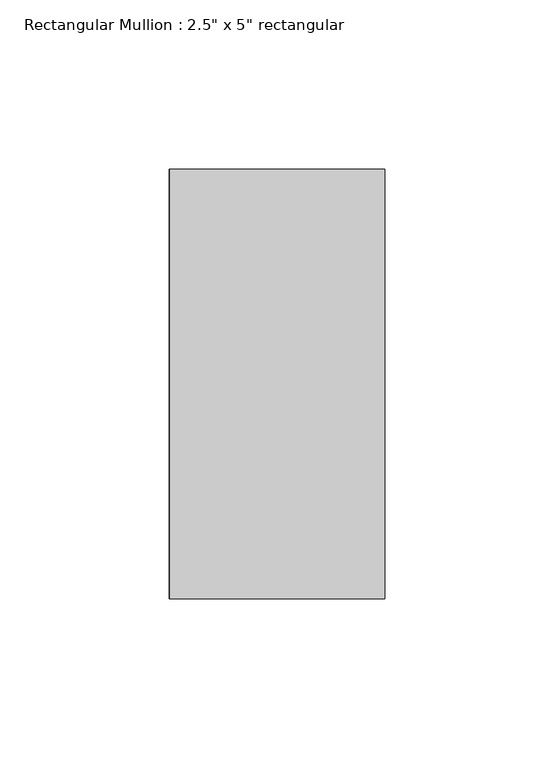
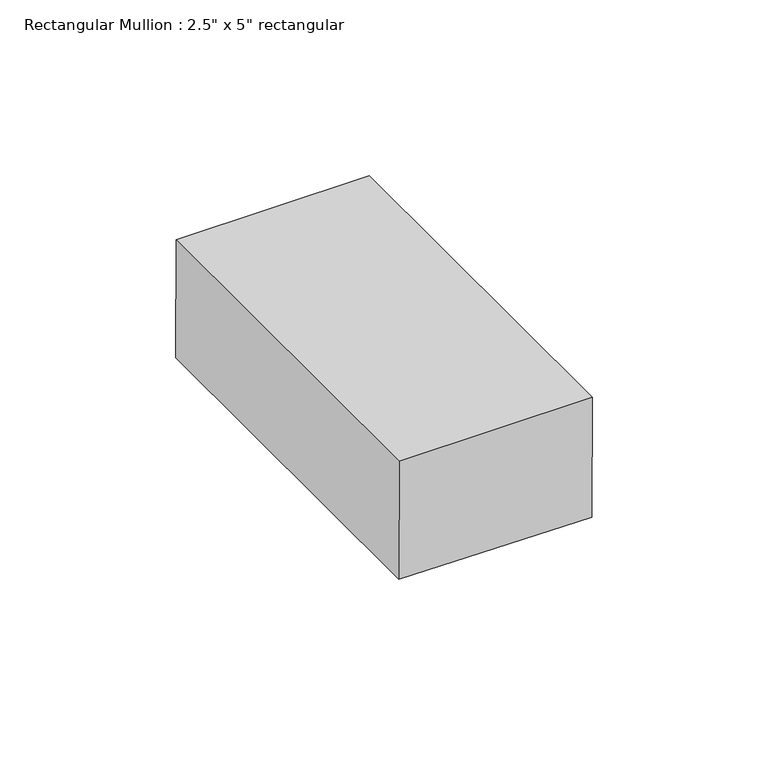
"""IFC4 building model written with IfcOpenShell, lengths in millimetres: member geometry."""

import ifcopenshell
import ifcopenshell.guid

model = None  # the IFC model being written
_history = None  # IfcOwnerHistory: only IFC2X3 demands one
_inside = {}  # id of a spatial element -> (the spatial element, [elements in it])
_under = {}  # id of a project, library or spatial element -> (it, [spatial elements below it])
_declared = {}  # id of a project -> (the project, [libraries it declares])
_typed = {}  # id of a type object -> (the type object, [elements of that type])
_made_of = {}  # id of a material, layer set ... -> (it, [elements and type objects made of it])


def new_model(schema):
    """Start an empty IFC model of exactly this schema.

    Asked for "IFC4X3", IfcOpenShell would pick the latest addendum, in which some entities
    have other attributes; the version numbers below select the first issue.
    IFC2X3 requires an IfcOwnerHistory on every rooted entity: one is made here for all.
    """
    global model, _history
    if schema == "IFC4X3":
        model = ifcopenshell.file(schema_version=(4, 3, 0, 0))
    else:
        model = ifcopenshell.file(schema=schema)
    _inside.clear()
    _under.clear()
    _declared.clear()
    _typed.clear()
    _made_of.clear()
    _history = None
    if model.schema == "IFC2X3":
        org = make("IfcOrganization", Name="unknown")
        user = make(
            "IfcPersonAndOrganization",
            ThePerson=make("IfcPerson", FamilyName="unknown"),
            TheOrganization=org,
        )
        app = make(
            "IfcApplication",
            ApplicationDeveloper=org,
            Version="unknown",
            ApplicationFullName="unknown",
            ApplicationIdentifier="unknown",
        )
        _history = make(
            "IfcOwnerHistory",
            OwningUser=user,
            OwningApplication=app,
            ChangeAction="ADDED",
            CreationDate=0,
        )
    return model


def make(cls, **values):
    """One entity of the class cls with the attributes given. An attribute that is None is left unset."""
    return model.create_entity(
        cls, **{name: value for name, value in values.items() if value is not None}
    )


def rooted(cls, **values):
    """An entity with a GlobalId (a new one), such as an element, a storey or a relation."""
    return make(cls, GlobalId=ifcopenshell.guid.new(), OwnerHistory=_history, **values)


def si_unit(unit_type, name, prefix=None):
    """IfcSIUnit, for example si_unit("LENGTHUNIT", "METRE", prefix="MILLI")."""
    return make("IfcSIUnit", UnitType=unit_type, Prefix=prefix, Name=name)


def assignment(units):
    """IfcUnitAssignment: the units of a project."""
    return None if units is None else make("IfcUnitAssignment", Units=units)


def point(xyz):
    """IfcCartesianPoint."""
    return None if xyz is None else make("IfcCartesianPoint", Coordinates=xyz)


def direction(xyz):
    """IfcDirection."""
    return None if xyz is None else make("IfcDirection", DirectionRatios=xyz)


def frame(location, z_axis=None, x_axis=None):
    """IfcAxis2Placement3D, a coordinate frame: its origin and axes. An axis left out is left unset."""
    return make(
        "IfcAxis2Placement3D",
        Location=point(location),
        Axis=direction(z_axis),
        RefDirection=direction(x_axis),
    )


def frame_2d(location, x_axis=None):
    """IfcAxis2Placement2D, a coordinate frame in the plane: its origin and x axis."""
    return make(
        "IfcAxis2Placement2D", Location=point(location), RefDirection=direction(x_axis)
    )


def origin():
    """The frame at (0, 0, 0) with its axes left unset."""
    return frame((0.0, 0.0, 0.0))


def place(relative_to, where):
    """IfcLocalPlacement: puts the frame where relative to a parent placement (None: the world)."""
    return make(
        "IfcLocalPlacement", PlacementRelTo=relative_to, RelativePlacement=where
    )


def context(
    kind, dimensions, precision=None, world=None, true_north=None, identifier=None
):
    """IfcGeometricRepresentationContext, for example the 3D "Model" context."""
    return make(
        "IfcGeometricRepresentationContext",
        ContextIdentifier=identifier,
        ContextType=kind,
        CoordinateSpaceDimension=dimensions,
        Precision=precision,
        WorldCoordinateSystem=world,
        TrueNorth=true_north,
    )


def project(units=None, contexts=None):
    """IfcProject with its units and contexts."""
    return rooted(
        "IfcProject",
        Name="project",
        RepresentationContexts=contexts,
        UnitsInContext=assignment(units),
    )


def spatial(cls, under=None, at=None, **own):
    """A site, building, storey or space (cls), placed at a placement, below another one or the project."""
    s = rooted(cls, ObjectPlacement=at, **own)
    if under is not None:
        _under.setdefault(under.id(), (under, []))[1].append(s)
    return s


def polyline(points):
    """IfcPolyline through the points."""
    return make("IfcPolyline", Points=[point(p) for p in points])


def circle_curve(where, radius):
    """IfcCircle in the frame where."""
    return make("IfcCircle", Position=where, Radius=radius)


def trimmed(basis, trim1, trim2, sense, master):
    """IfcTrimmedCurve: the piece of a basis curve between two trims."""
    return make(
        "IfcTrimmedCurve",
        BasisCurve=basis,
        Trim1=trim1,
        Trim2=trim2,
        SenseAgreement=sense,
        MasterRepresentation=master,
    )


def segment(curve, same_sense, transition):
    """IfcCompositeCurveSegment."""
    return make(
        "IfcCompositeCurveSegment",
        Transition=transition,
        SameSense=same_sense,
        ParentCurve=curve,
    )


def composite_curve(segments, self_intersect=None):
    """IfcCompositeCurve: segments joined end to end."""
    return make("IfcCompositeCurve", Segments=segments, SelfIntersect=self_intersect)


def outline(outer, holes=None, kind="AREA"):
    """IfcArbitraryClosedProfileDef: a profile drawn as a closed curve; with holes, ...WithVoids."""
    if holes is None:
        return make("IfcArbitraryClosedProfileDef", ProfileType=kind, OuterCurve=outer)
    return make(
        "IfcArbitraryProfileDefWithVoids",
        ProfileType=kind,
        OuterCurve=outer,
        InnerCurves=holes,
    )


def extrude(swept, where, along, depth):
    """IfcExtrudedAreaSolid: the profile swept, set in the frame where, extruded along a direction by depth."""
    return make(
        "IfcExtrudedAreaSolid",
        SweptArea=swept,
        Position=where,
        ExtrudedDirection=direction(along),
        Depth=depth,
    )


def shape(context_of_items, identifier, shape_type, items):
    """IfcShapeRepresentation: the items that make up one representation, for example the "Body"."""
    return make(
        "IfcShapeRepresentation",
        ContextOfItems=context_of_items,
        RepresentationIdentifier=identifier,
        RepresentationType=shape_type,
        Items=items,
    )


def source(mapping_origin, context_of_items, identifier, shape_type, items):
    """IfcRepresentationMap: a shape defined once, which mapped items show again and again."""
    return make(
        "IfcRepresentationMap",
        MappingOrigin=mapping_origin,
        MappedRepresentation=shape(context_of_items, identifier, shape_type, items),
    )


def transform(
    local_origin,
    x_axis=None,
    y_axis=None,
    z_axis=None,
    scale=None,
    scale2=None,
    scale3=None,
    uniform=True,
):
    """IfcCartesianTransformationOperator3D, or its non-uniform kind. x_axis, y_axis, z_axis: its Axis1, 2, 3."""
    if uniform:
        return make(
            "IfcCartesianTransformationOperator3D",
            Axis1=direction(x_axis),
            Axis2=direction(y_axis),
            LocalOrigin=point(local_origin),
            Scale=scale,
            Axis3=direction(z_axis),
        )
    return make(
        "IfcCartesianTransformationOperator3DnonUniform",
        Axis1=direction(x_axis),
        Axis2=direction(y_axis),
        LocalOrigin=point(local_origin),
        Scale=scale,
        Axis3=direction(z_axis),
        Scale2=scale2,
        Scale3=scale3,
    )


def mapped(mapping_source, mapping_target):
    """IfcMappedItem: shows the shape of a source again, moved by a transform."""
    return make(
        "IfcMappedItem", MappingSource=mapping_source, MappingTarget=mapping_target
    )


def made_of(thing, what):
    """Note that an element or type object is made of a material, layer set ...; save() writes the relation."""
    if what is not None:
        _made_of.setdefault(what.id(), (what, []))[1].append(thing)
    return thing


def element(
    cls,
    number,
    at=None,
    inside=None,
    cuts=None,
    type_object=None,
    material=None,
    context=None,
    identifier="Body",
    shape_type=None,
    held_by="IfcProductDefinitionShape",
    body=None,
    shapes=None,
    **own,
):
    """One element of the class cls, such as IfcWall. Its Tag is "e" and its number.

    at: its placement. inside: the storey or other place that contains it. cuts: it is an
    opening in that element (IfcRelVoidsElement). A single representation is given by context,
    identifier, shape_type and body (its items); several are given by shapes. held_by: the class
    of the entity that holds the representations. save() writes the other relations.
    """
    e = rooted(cls, Tag="e%d" % number, ObjectPlacement=at, **own)
    if body is not None:
        shapes = [shape(context, identifier, shape_type, body)]
    if shapes is not None:
        e.Representation = make(held_by, Representations=shapes)
    if inside is not None:
        _inside.setdefault(inside.id(), (inside, []))[1].append(e)
    if cuts is not None:
        rooted(
            "IfcRelVoidsElement", RelatingBuildingElement=cuts, RelatedOpeningElement=e
        )
    if type_object is not None:
        _typed.setdefault(type_object.id(), (type_object, []))[1].append(e)
    return made_of(e, material)


def aggregate(whole, parts):
    """IfcRelAggregates: a whole, such as a stair, and the parts it consists of."""
    return rooted("IfcRelAggregates", RelatingObject=whole, RelatedObjects=parts)


def save(model, path):
    """Write the relations noted so far, then the file.

    IfcRelAggregates (storeys below a building ...), IfcRelContainedInSpatialStructure (elements
    in a storey), IfcRelDefinesByType, IfcRelAssociatesMaterial and IfcRelDeclares: one each for
    every whole, place, type object, material and project.
    """
    for whole, parts in _under.values():
        aggregate(whole, parts)
    for where, things in _inside.values():
        rooted(
            "IfcRelContainedInSpatialStructure",
            RelatedElements=things,
            RelatingStructure=where,
        )
    for kind, things in _typed.values():
        rooted("IfcRelDefinesByType", RelatedObjects=things, RelatingType=kind)
    for what, things in _made_of.values():
        rooted("IfcRelAssociatesMaterial", RelatedObjects=things, RelatingMaterial=what)
    for by, libraries in _declared.values():
        rooted("IfcRelDeclares", RelatingContext=by, RelatedDefinitions=libraries)
    model.write(path)


def member_daa0d148(model_context):
    return source(origin(), model_context, "Body", "SweptSolid", [
        extrude(outline(composite_curve([segment(trimmed(circle_curve(frame_2d((0.0, -3962.3999998)), 3962.3999998), [point((-41.6487942, -0.2188913))], [point((0.0, 0.0))], False, "CARTESIAN"), True, "CONTINUOUS"), segment(polyline([(0.0, 0.0), (0.0, -63.5)]), True, "CONTINUOUS"), segment(trimmed(circle_curve(frame_2d((0.0, -3962.3999998)), 3898.8999998), [point((0.0, -63.5))], [point((-40.9813456, -63.7153835))], True, "CARTESIAN"), True, "CONTINUOUS"), segment(polyline([(-40.9813456, -63.7153835), (-41.6487942, -0.2188913)]), True, "CONTINUOUS")], self_intersect=False)), frame((0.0, -63.5, 0.0), z_axis=(0.0, 1.0, 0.0), x_axis=(0.0, 0.0, 1.0)), (0.0, 0.0, 1.0), 127.0),
    ])


if __name__ == "__main__":
    model = new_model("IFC4")
    model_context = context("Model", 3, world=origin())
    ifc_project = project(units=[si_unit("LENGTHUNIT", "METRE", prefix="MILLI")], contexts=[model_context])
    site = spatial("IfcSite", under=ifc_project)
    building = spatial("IfcBuilding", under=site)
    placement = place(None, origin())
    member_shape = member_daa0d148(model_context)
    element("IfcMember", 1, ObjectType="Rectangular Mullion : 2.5\" x 5\" rectangular", at=placement, inside=building, context=model_context, shape_type="MappedRepresentation", body=[
        mapped(member_shape, transform((0.0, 0.0, 0.0), x_axis=(1.0, 0.0, 0.0), y_axis=(0.0, 1.0, 0.0), z_axis=(0.0, 0.0, 1.0))),
    ])
    save(model, "model.ifc")
